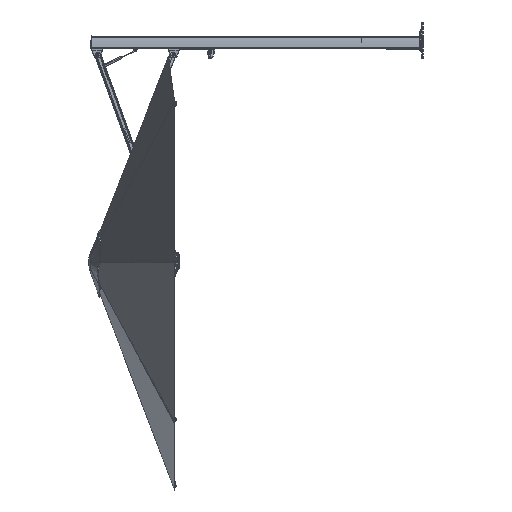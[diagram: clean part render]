
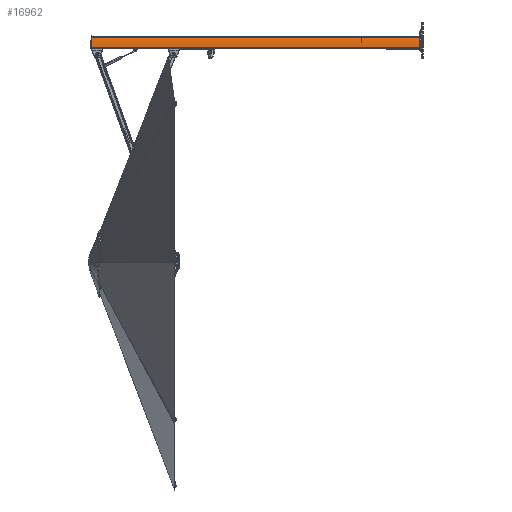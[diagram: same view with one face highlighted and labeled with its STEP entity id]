
A CAD part, left-side view. The second image highlights one B-rep face of the part: STEP entity #16962.
In plain terms, the highlighted cylindrical face has radius 528.498 mm (diameter 1057 mm), a partial arc.
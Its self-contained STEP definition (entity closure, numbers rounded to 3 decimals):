
#1301 = CIRCLE ( 'NONE', #61437, 528.498 ) ;
#5396 = FACE_OUTER_BOUND ( 'NONE', #47076, .T. ) ;
#5479 = VERTEX_POINT ( 'NONE', #42017 ) ;
#5876 = LINE ( 'NONE', #16935, #16486 ) ;
#7004 = VERTEX_POINT ( 'NONE', #64626 ) ;
#13102 = DIRECTION ( 'NONE',  ( 0., 0., -1. ) ) ;
#16486 = VECTOR ( 'NONE', #21986, 1000. ) ;
#16935 = CARTESIAN_POINT ( 'NONE',  ( -42.958, 1400., -46.19 ) ) ;
#16962 = ADVANCED_FACE ( 'NONE', ( #5396 ), #55590, .T. ) ;
#21585 = ORIENTED_EDGE ( 'NONE', *, *, #30169, .T. ) ;
#21986 = DIRECTION ( 'NONE',  ( 0., -1., 0. ) ) ;
#25048 = VERTEX_POINT ( 'NONE', #54232 ) ;
#25273 = CARTESIAN_POINT ( 'NONE',  ( 485.498, 1400., -52.823 ) ) ;
#28034 = CARTESIAN_POINT ( 'NONE',  ( -33.771, 1400., 45.515 ) ) ;
#30169 = EDGE_CURVE ( 'NONE', #5479, #25048, #5876, .T. ) ;
#34580 = DIRECTION ( 'NONE',  ( 0., 1., 0. ) ) ;
#35042 = DIRECTION ( 'NONE',  ( 0., 0., 1. ) ) ;
#36396 = VECTOR ( 'NONE', #38601, 1000. ) ;
#38097 = CARTESIAN_POINT ( 'NONE',  ( -33.771, -1400., 45.515 ) ) ;
#38267 = EDGE_CURVE ( 'NONE', #25048, #40536, #39463, .T. ) ;
#38601 = DIRECTION ( 'NONE',  ( 0., -1., 0. ) ) ;
#39463 = CIRCLE ( 'NONE', #48588, 528.498 ) ;
#40536 = VERTEX_POINT ( 'NONE', #38097 ) ;
#40541 = CARTESIAN_POINT ( 'NONE',  ( 485.498, -1400., -52.823 ) ) ;
#42017 = CARTESIAN_POINT ( 'NONE',  ( -42.958, 1480., -46.19 ) ) ;
#46655 = DIRECTION ( 'NONE',  ( 0., -1., 0. ) ) ;
#47076 = EDGE_LOOP ( 'NONE', ( #66684, #64906, #61996, #21585 ) ) ;
#48588 = AXIS2_PLACEMENT_3D ( 'NONE', #40541, #34580, #35042 ) ;
#48639 = AXIS2_PLACEMENT_3D ( 'NONE', #25273, #46655, #62698 ) ;
#52493 = EDGE_CURVE ( 'NONE', #5479, #7004, #1301, .T. ) ;
#53674 = LINE ( 'NONE', #28034, #36396 ) ;
#54232 = CARTESIAN_POINT ( 'NONE',  ( -42.958, -1400., -46.19 ) ) ;
#55590 = CYLINDRICAL_SURFACE ( 'NONE', #48639, 528.498 ) ;
#60937 = EDGE_CURVE ( 'NONE', #7004, #40536, #53674, .T. ) ;
#61437 = AXIS2_PLACEMENT_3D ( 'NONE', #65463, #65905, #13102 ) ;
#61996 = ORIENTED_EDGE ( 'NONE', *, *, #52493, .F. ) ;
#62698 = DIRECTION ( 'NONE',  ( 0., 0., -1. ) ) ;
#64626 = CARTESIAN_POINT ( 'NONE',  ( -33.771, 1480., 45.515 ) ) ;
#64906 = ORIENTED_EDGE ( 'NONE', *, *, #60937, .F. ) ;
#65463 = CARTESIAN_POINT ( 'NONE',  ( 485.498, 1480., -52.823 ) ) ;
#65905 = DIRECTION ( 'NONE',  ( 0., 1., 0. ) ) ;
#66684 = ORIENTED_EDGE ( 'NONE', *, *, #38267, .T. ) ;
